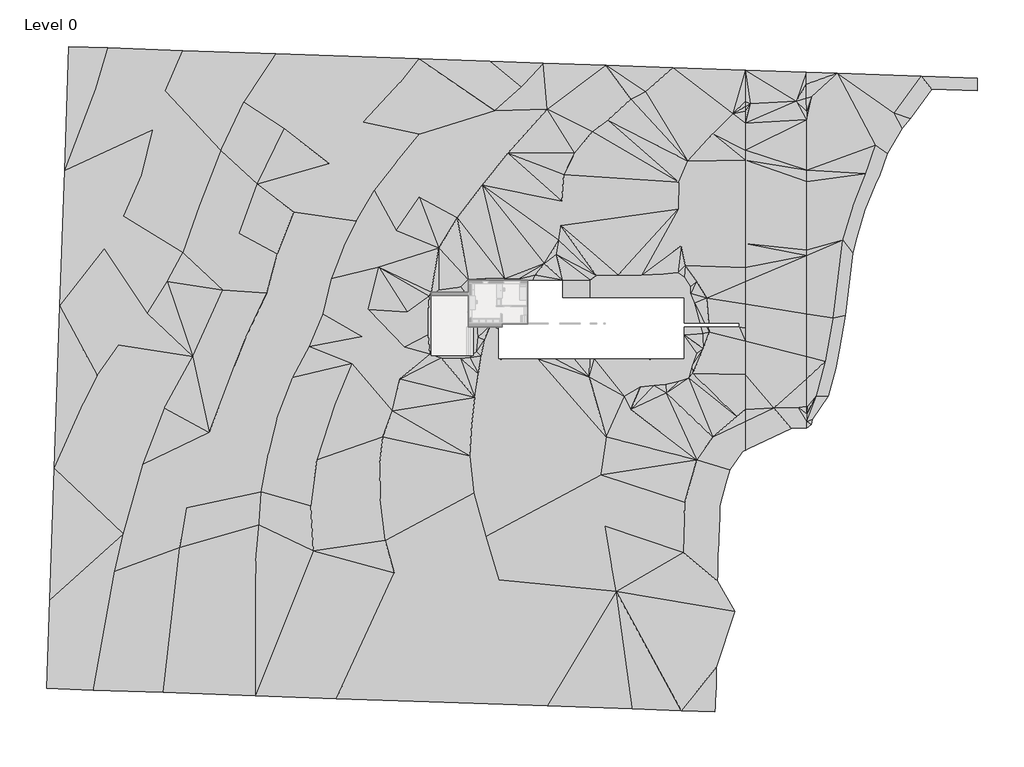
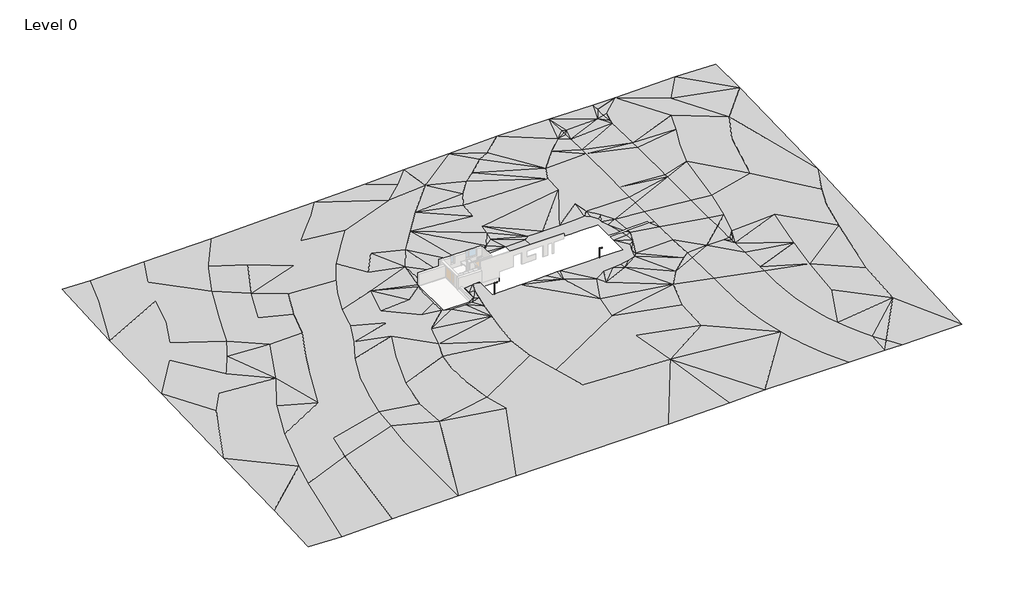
# One storey, part 2 of 2: 5 proxies.
"""IFC4 building model written with IfcOpenShell, lengths in millimetres."""

from ifc_helpers import new_model, si_unit, origin, place, context, project, spatial, triangles, transform, mapped, element, save
from components import downpipe_w_angle_generic_wall_hosted_75_mm_pipe_f65a7cb1, downpipe_w_angle_generic_wall_hosted_75_mm_pipe_d87bf8e7

model = new_model("IFC4")

# Units and contexts
model_context = context("Model", 3, world=origin())
ifc_project = project(units=[si_unit("LENGTHUNIT", "METRE", prefix="MILLI")], contexts=[model_context])

# Site, building, storey
site = spatial("IfcSite", under=ifc_project)
building = spatial("IfcBuilding", under=site)
storey = spatial("IfcBuildingStorey", under=building, Name="Level 0", Elevation=-600.0)

# Proxies
placement = place(None, origin())
element("IfcBuildingElementProxy", 1, Name="Building Element Proxy", at=placement, inside=storey, context=model_context, shape_type="Tessellation", body=[
    triangles([(-47062.8575684, 40293.7637695, -4500.0000343), (-52113.9492554, 40470.1530029, -4500.0000343), (-52680.2635254, 24253.0475281, -4500.0000343), (-53297.9514038, 6564.8318481, -4000.0000305), (-54038.6829346, -14646.8850403, -3500.0000267), (-54638.7579346, -31830.8059204, -3000.0000229), (-55043.0867432, -43409.3735962, -3000.0000229), (-48951.1469604, -43622.1094482, -3000.0000229), (-39803.593689, -43941.550415, -2500.0000191), (-27810.1350586, -44360.3713623, -2000.0000153), (-17239.6279449, -44729.5023193, -1500.0000114), (-5042.8916061, -45155.4205078, -1000.0000076), (10338.5491791, -45692.5505127, -500.0000038), (21451.1325073, -46080.6105469, 0.0), (27844.1074036, -46303.8573853, 500.0000038), (43052.9116333, -46834.9598511, 848.3401514), (41979.1353149, -44769.7417236, 821.2167343), (40992.335083, -42661.5773804, 796.0280828), (40094.2271118, -40514.127063, 772.8178717), (39286.3694458, -38331.1277527, 751.6265053), (39000.8101318, -37448.0839783, 743.9968838), (38570.1596741, -36116.3629395, 734.1783697), (37946.8512085, -33873.683551, 719.8918871), (37417.5207275, -31606.9800476, 707.6728655), (36983.0891052, -29320.1917236, 697.5425245), (36644.3074585, -27017.2904297, 689.5183777), (36596.8638428, -26564.436676, 688.3634336), (36401.7687744, -24702.2712708, 680.94986), (36335.5797913, -23648.1867737, 677.72215), (36255.8939575, -22379.1595825, 675.0342327), (36206.9318298, -20051.987677, 672.2113672), (36206.8132324, -19443.358548, 671.7480234), (36206.0249084, -15469.7173737, 648.0182945), (36205.4621521, -12624.6049896, 609.2137954), (36204.6505737, -8520.1252899, 500.0000038), (36204.4691895, -7605.5439056, 500.0000038), (36204.3436157, -6964.2999069, 500.0000038), (36203.4366943, -2378.8300896, 278.9753953), (36202.5786072, 1955.5409557, 154.9854345), (36202.2367676, 3675.0160881, 145.2621454), (36201.6228516, 6787.9943893, 152.8893415), (36201.0368408, 9744.5709, 142.2020215), (36200.6787231, 11554.5679779, 166.3682426), (36200.0462036, 14749.4345947, 198.2273626), (36199.4904236, 17562.3721985, 203.8248407), (36197.899823, 25594.6726135, 125.4370927), (36197.6416992, 26900.2301331, 115.9978887), (36196.9417419, 30441.6046692, 52.4488289), (36196.6301331, 32020.303656, 0.0), (36196.5092102, 32624.3505066, 0.0), (36196.381311, 33275.6061035, -31.2932048), (36195.5674072, 37386.3156555, -279.2368801), (26696.8216187, 37718.02099, -500.0000038), (18007.2810883, 38021.4652588, -1000.0000076), (9832.8207458, 38306.9245789, -1500.0000114), (2811.2909019, 38552.1212402, -2000.0000153), (-6430.5109772, 38874.8527039, -2500.0000191), (-15696.7697937, 39198.4352783, -3000.0000229), (-25115.869281, 39527.3593872, -3500.0000267), (-37279.4872925, 39952.1241577, -4000.0000305), (12360.0002106, 9960.0001923, -210.0000089), (12360.0002106, 7679.999826, -229.7587047), (12986.7293976, 7679.999826, -199.1943094), (15938.3887665, 7679.999826, -109.0047382), (18788.9891876, 7679.999826, -110.9825699), (20187.7979919, 7679.999826, -100.0000008), (22628.3373962, 7679.999826, -100.0000008), (22988.0666016, 7679.999826, -100.0000008), (24740.727063, 7679.999826, -100.0000008), (28197.1858521, 7679.999826, -100.0000008), (28199.9996338, 7679.999826, -100.0000008), (28199.9996338, 7678.500499, -100.0000008), (28199.9996338, 4319.9999748, -100.0000008), (29690.7714294, 4319.9999748, -100.0000008), (30279.9424438, 4319.9999748, -100.0000008), (30908.9993958, 4319.9999748, -31.0460633), (31416.6009705, 4319.9999748, 0.0), (35399.9996887, 4319.9999748, 122.2298394), (35399.9996887, 3839.999913, 121.0508688), (31455.0242065, 3839.999913, 0.0), (31153.3635498, 3839.999913, -18.4501842), (30409.3973328, 3839.999913, -100.0000008), (29712.602655, 3839.999913, -100.0000008), (28199.9996338, 3839.999913, -100.0000008), (28199.9996338, 2757.5497055, -100.0000008), (28199.9996338, -360.00001, -100.0000008), (23853.7207397, -360.00001, -100.0000008), (22511.993335, -360.00001, -100.0000008), (21752.8164185, -360.00001, -100.0000008), (16504.800705, -360.00001, -141.2041627), (15862.1806274, -360.00001, -140.758296), (15196.7770569, -360.00001, -161.0900401), (13880.4667053, -360.00001, -225.2839233), (13373.8755341, -360.00001, -233.3955103), (12470.4004486, -360.00001, -249.2727207), (11393.3638641, -360.00001, -270.7964614), (9179.1106476, -360.00001, -319.6154838), (3959.9998558, -360.00001, -445.0650939), (3959.9998558, 1473.4966873, -452.5169646), (3959.9998558, 3551.736985, -472.7297934), (3959.9998558, 3839.999913, -476.6637102), (3412.2219543, 3839.999913, -487.6106074), (2850.2850334, 3839.999913, -500.0000038), (2705.52323, 3839.999913, -531.4807858), (1224.3767189, 3839.999913, -709.9999763), (0.0, 3839.999913, -709.9999763), (0.0, 3843.4784798, -709.9999763), (0.0, 4418.2806038, -709.9999763), (0.0, 7191.4790634, -709.9999763), (0.0, 7461.3893326, -709.9999763), (0.0, 7882.6211792, -709.9999763), (0.0, 7919.9997116, -710.7061106), (-31.6140269, 7919.9997116, -709.9999763), (-1504.7497215, 7919.9997116, -709.9999763), (-4176.3875198, 7919.9997116, -709.9999763), (-4800.0000366, 7919.9997116, -709.9999763), (-4800.0000366, 8035.0118774, -709.9999763), (-4800.0000366, 8400.0000641, -729.1942263), (-4206.8946693, 8400.0000641, -709.9999763), (-3944.5231842, 8400.0000641, -709.9999763), (-3079.6797523, 8400.0000641, -709.9999763), (-437.587825, 8400.0000641, -709.9999763), (0.0, 8400.0000641, -719.7739437), (0.0, 9960.0001923, -749.2443832), (7.1510965, 9960.0001923, -749.4040392), (2125.0455803, 9960.0001923, -747.2442146), (2319.5642303, 9960.0001923, -739.3771076), (2455.8945717, 9960.0001923, -733.8796234), (4805.8618881, 9960.0001923, -733.8796234), (4953.8563431, 9960.0001923, -725.251153), (6600.6441971, 9960.0001923, -730.7311237), (6853.6020126, 9960.0001923, -704.9790619), (7800.0000595, 9960.0001923, -581.8375231), (8428.9581802, 9960.0001923, -500.0000038), (63585.4397461, -47551.9718994, 1500.0000114), (65303.6651001, 1651.4795734, 1500.0000114), (66230.8503662, 28202.6204041, 1000.0000076), (66514.5772339, 36327.5523743, 500.0000038), (59144.0178223, 36584.9389893, 500.0000038), (48210.2572998, 36966.7552185, 0.0), (44190.6933472, 37107.1210693, -93.4198246), (44191.0003052, 35558.2946777, 0.0), (44191.2654053, 34209.8676819, 0.0), (44191.3677246, 33712.0096985, 0.0), (44191.7165405, 31934.6437683, 72.6111838), (44191.9211792, 30893.6096375, 88.7050779), (44193.2234253, 24332.861261, 306.6717607), (44193.5257324, 22803.0964966, 334.1229921), (44194.269873, 19042.5376648, 361.3118849), (44194.8558838, 16068.4447815, 390.3362397), (44195.0651733, 15026.9083557, 388.2636918), (44195.2977173, 13843.9561432, 376.4673188), (44195.4279419, 13173.7749573, 367.5193548), (44196.9394775, 5532.5384628, 395.1405976), (44197.1255127, 4592.1322014, 392.8364868), (44198.0463867, -57.8921377, 419.1314661), (44198.6091431, -2884.8492027, 500.0000038), (44198.9998169, -4861.496283, 500.0000038), (44199.22771, -6011.4522537, 500.0000038), (44199.3393311, -6581.8465073, 500.0000038), (44199.534668, -7568.643251, 560.6235563), (44199.7160522, -8498.5527695, 566.292905), (44200.3625244, -11759.9798584, 687.5978554), (44201.3159546, -16580.0542511, 815.8525269), (44201.5810547, -17920.7363708, 834.1381113), (44201.953125, -19793.2081238, 845.3201323), (44202.0600952, -20331.1822632, 845.7296276), (44234.3790527, -21781.2960754, 847.527919), (44247.6340576, -22375.9504761, 848.8214447), (44383.467627, -24416.7119568, 855.2387129), (44609.2864014, -26449.4832275, 863.612911), (44771.1741943, -27486.8129333, 868.9077913), (44924.6578491, -28470.2994141, 872.5287912), (45328.9634033, -30475.216571, 881.9271275), (45733.0829224, -32104.2566711, 891.2315014), (45821.4124146, -32460.3233093, 893.6950138), (46401.0468018, -34421.7477722, 909.3926748), (47066.7317505, -36355.6599609, 927.0232121), (47817.1743164, -38258.2880127, 946.5522526), (48650.9048218, -40125.9182007, 967.9416447), (49566.3001099, -41954.9088867, 991.1496758), (49918.9018433, -42587.926062, 1000.0000076), (50561.5695923, -43741.6928467, 1047.5840218), (51238.2864258, -44839.5421143, 1097.2580973), (51634.7785034, -45482.7772705, 1100.1833548), (52783.824646, -47174.7716675, 1111.758375), (-48727.0164551, 34677.7437744, -4500.0000343), (-39569.998645, 34629.3444031, -4000.0000305), (-41240.5431885, 29531.6671875, -4000.0000305), (-42666.0794312, 23679.1686035, -4000.0000305), (-45023.6843628, 18334.1157898, -4000.0000305), (-47481.3203979, 14010.1901825, -4000.0000305), (-29308.3924438, 33185.52323, -3500.0000267), (-32311.3300781, 26845.3706909, -3500.0000267), (-35071.6220581, 19682.6404541, -3500.0000267), (-37254.3446411, 13517.3714264, -3500.0000267), (-39284.1230713, 9789.0862061, -3500.0000267), (-41872.5418213, 5605.4113403, -3500.0000267), (-45612.8763062, 1461.9632343, -3500.0000267), (-48397.4737793, -2511.3333389, -3500.0000267), (-50221.6089478, -6178.9583084, -3500.0000267), (-24001.2001099, 29743.7635437, -3000.0000229), (-27511.581189, 22471.5399902, -3000.0000229), (-29907.0466003, 16042.3324219, -3000.0000229), (-32064.6009521, 8655.024614, -3000.0000229), (-35963.4699463, -28.3201486, -3000.0000229), (-39658.2025635, -6751.3675552, -3000.0000229), (-42493.3504395, -14115.012854, -3000.0000229), (-45048.8595703, -23184.4801941, -3000.0000229), (-46170.2283325, -28097.808197, -3000.0000229), (-37649.7205078, -25003.2366211, -2500.0000191), (-36789.9264771, -19809.4048096, -2500.0000191), (-33799.4648254, -9941.0199554, -2500.0000191), (-30515.1652954, -1371.8979469, -2500.0000191), (-29025.0981079, 2443.0776215, -2500.0000191), (-26312.1288208, 8250.6173218, -2500.0000191), (-24912.6235474, 13357.7590759, -2500.0000191), (-22753.5623108, 18845.4299286, -2500.0000191), (-18122.0287354, 25196.5527283, -2500.0000191), (-13659.1406799, 30603.7715149, -2500.0000191), (-8864.5531036, 35795.8801758, -2500.0000191), (-6388.4228485, 28993.025647, -2000.0000153), (-9364.4702637, 25365.6261292, -2000.0000153), (-12275.123996, 21668.1006592, -2000.0000153), (-14585.4062347, 17678.2418701, -2000.0000153), (-16187.3305481, 14459.9999359, -2000.0000153), (-17834.2137451, 10125.5145081, -2000.0000153), (-18946.1179688, 5483.2257751, -2000.0000153), (-20721.4212341, 1271.1572937, -2000.0000153), (-22898.5511353, -2791.1947449, -2000.0000153), (-24987.4840942, -8213.472496, -2000.0000153), (-26097.0210205, -12788.0019928, -2000.0000153), (-27015.1114929, -17708.4272369, -2000.0000153), (-27302.068396, -22040.3128235, -2000.0000153), (-27738.7440674, -26774.0238831, -2000.0000153), (-20228.3931885, -25408.0747009, -1500.0000114), (-20566.9748474, -19561.815271, -1500.0000114), (-19746.5435303, -13552.5030029, -1500.0000114), (-17390.4443207, -6307.8138153, -1500.0000114), (-15168.3566986, -958.0283689, -1500.0000114), (-13891.0335022, 2593.0074234, -1500.0000114), (-13022.63302, 6090.4805695, -1500.0000114), (-11674.3234589, 11674.3060181, -1500.0000114), (-9405.7723938, 16411.8877716, -1500.0000114), (-6403.6969162, 20784.6429565, -1500.0000114), (-1297.8450542, 27119.2028137, -1500.0000114), (3489.6439728, 32108.0331848, -1500.0000114), (6921.0792892, 35176.7923828, -1500.0000114), (10347.5660706, 32275.6020264, -1000.0000076), (5195.2503296, 26553.2466614, -1000.0000076), (1859.1087605, 22327.8417847, -1000.0000076), (-1398.9093796, 18126.6784515, -1000.0000076), (-3825.0772774, 14149.4654022, -1000.0000076), (-7940.8594849, 5802.4702423, -1000.0000076), (-8333.9447937, 1225.2095169, -1000.0000076), (-8925.7639023, -3001.0194374, -1000.0000076), (-9890.4183929, -7180.3012573, -1000.0000076), (-11160.6431854, -10534.0500366, -1000.0000076), (-11552.3599731, -13974.3353943, -1000.0000076), (-11444.5898071, -18659.2157135, -1000.0000076), (-10818.4059357, -24040.6232849, -1000.0000076), (-9609.9180725, -28289.0453613, -1000.0000076), (3993.2080032, -29238.9734253, -500.0000038), (2292.3340611, -23548.6672668, -500.0000038), (726.9793905, -17863.0957031, -500.0000038), (217.3844419, -13028.4977783, -500.0000038), (497.2431227, -8899.8916443, -500.0000038), (891.3251003, -5385.8549744, -500.0000038), (1346.1470478, -2223.5266331, -500.0000038), (2095.3158543, 2128.5684757, -500.0000038), (8788.1391632, 10609.6175171, -500.0000038), (11516.9016724, 13306.7726532, -500.0000038), (12123.7274231, 17084.7490265, -500.0000038), (12234.9392395, 20269.4534729, -500.0000038), (12491.1363922, 23720.4637573, -500.0000038), (13945.7103973, 26519.0440979, -500.0000038), (16215.7660217, 29356.9894775, -500.0000038), (18235.2195007, 30846.8403992, -500.0000038), (21248.2658203, 33590.9984802, -500.0000038), (23181.0292419, 34541.1404846, -500.0000038), (44868.8473022, 33919.4691284, 0.0), (34547.2261597, 31701.9021606, 0.0), (31945.4710144, 29079.0645813, 0.0), (28698.3831665, 25461.1296021, 0.0), (27517.2157288, 22720.8457031, 0.0), (27461.9307312, 19194.9760345, 0.0), (27860.4226868, 14459.9999359, 0.0), (28378.5817566, 11841.5469727, 0.0), (31155.623877, 7580.336142, 0.0), (31511.3044922, 3136.9059105, 0.0), (29351.6991028, -2282.9900093, 0.0), (21225.0300293, -6988.215889, 0.0), (18031.4156616, -10534.0500366, 0.0), (17294.3222809, -15524.4210114, 0.0), (17875.5484314, -22193.2616272, 0.0), (18716.8424286, -27242.9696777, 0.0), (19341.5217407, -30724.7408752, 0.0), (28068.5355652, -25602.1116943, 500.0000038), (28295.6914673, -19097.1854919, 500.0000038), (29847.280481, -13520.4584473, 500.0000038), (31979.4526611, -10534.0500366, 500.0000038), (35064.9899048, -7868.2290344, 500.0000038), (36199.9996948, -6964.5516357, 500.0000038), (44337.0937134, -6563.8028412, 500.0000038), (45470.9361328, -5178.7100601, 500.0000038), (46645.8690674, -674.3065882, 500.0000038), (47657.7468384, 4989.1094238, 500.0000038), (48895.9224243, 15190.0553741, 500.0000038), (50274.1313232, 19687.3610962, 500.0000038), (51911.5476563, 23836.4008667, 500.0000038), (53195.971582, 27590.7158936, 500.0000038), (55648.8730225, 31779.1230286, 500.0000038), (60736.0043701, 22035.7154297, 1000.0000076), (58037.2342163, 16634.7334717, 1000.0000076), (55722.0034424, 6674.9251282, 1000.0000076), (53335.7909546, -5317.6719269, 1000.0000076), (52093.7411865, -13686.7413208, 1000.0000076), (51326.8763672, -20104.9774658, 1000.0000076), (50706.4956299, -28156.5464722, 1000.0000076), (57713.8725586, -35619.0770142, 1500.0000114), (58305.9015381, -26183.1273926, 1500.0000114), (60372.2498291, -13636.622287, 1500.0000114), (61674.0959473, -7440.5935089, 1500.0000114), (63057.1231567, -3553.8845284, 1500.0000114), (11832.5114777, 15154.4156891, -500.0000038), (9950.8751678, 12083.4426727, -500.0000038), (1735.4006138, 0.0, -500.0000038), (29870.0907166, 9741.7024704, 0.0), (30738.9167542, 999.1443913, 0.0), (25851.7731995, -4811.1269737, 0.0), (20416.7863403, -5238.1424789, -100.0000008), (22459.4616577, -3990.260218, -100.0000008), (24228.7466858, -3843.1572784, -100.0000008), (25817.300885, -3664.5609123, -100.0000008), (27456.1055054, -3296.7179581, -100.0000008), (28837.8746521, -2864.285051, -100.0000008), (29304.2043274, -1143.71609, -100.0000008), (29869.8953796, 381.3363894, -100.0000008), (30652.7243408, 2937.7683563, -100.0000008), (29571.2717468, 6947.676503, -100.0000008), (29062.4818726, 8164.9522018, -100.0000008), (29045.64104, 9098.5016144, -100.0000008), (28251.6918274, 10345.668512, -100.0000008), (27431.4721252, 10924.2006409, -100.0000008), (15839.9994232, -2700.0000206, -150.0000011), (25511.5637329, 10719.1294373, -100.0000008), (22670.9580505, 10625.224704, -100.0000008), (19619.0675903, 10601.74823, -100.0000008), (16754.9842712, 10554.7964447, -100.0000008), (15960.000238, 9960.0001923, -100.0000008), (6589.8413681, 10108.750415, -750.0000057), (4758.7072083, 10155.703363, -750.0000057), (2246.7664936, 10155.703363, -750.0000057), (0.0, 10000.0000763, -750.0000057), (-969.4566685, 9028.8512146, -709.9999763), (-3833.5386795, 8629.7575516, -709.9999763), (-5054.2949799, 7878.5231735, -709.9999763), (-5171.6750244, 5859.5801285, -709.9999763), (-5195.1514984, 2831.1655609, -709.9999763), (-5030.8185059, 319.2248099, -709.9999763), (-3528.3494591, -220.7250446, -709.9999763), (-969.4566685, -267.6772114, -709.9999763), (251.2995955, -150.2968035, -709.9999763), (1096.4385252, 624.4138487, -709.9999763), (1284.2471924, 2479.0242645, -709.9999763)], [[6, 7, 8], [210, 8, 9], [8, 210, 6], [235, 211, 9], [6, 209, 5], [209, 6, 210], [209, 210, 211], [5, 209, 208], [209, 212, 208], [212, 209, 211], [234, 212, 211], [213, 208, 212], [210, 9, 211], [5, 208, 201], [235, 9, 10], [235, 236, 234], [235, 10, 236], [262, 261, 236], [262, 11, 12], [260, 261, 265], [262, 236, 11], [10, 11, 236], [236, 261, 237], [234, 237, 233], [234, 236, 237], [233, 237, 238], [233, 212, 234], [238, 260, 259], [260, 238, 237], [259, 266, 258], [238, 259, 258], [261, 260, 237], [213, 212, 233], [265, 259, 260], [234, 211, 235], [232, 233, 238], [201, 200, 4], [200, 201, 207], [206, 207, 213], [207, 201, 208], [207, 208, 213], [200, 207, 199], [233, 232, 213], [213, 231, 214], [4, 199, 198], [199, 4, 200], [198, 199, 206], [192, 4, 198], [206, 214, 215], [206, 199, 207], [230, 215, 214], [198, 206, 197], [213, 214, 206], [215, 205, 206], [231, 213, 232], [201, 4, 5], [231, 239, 230], [232, 238, 231], [240, 230, 239], [231, 230, 214], [239, 257, 240], [266, 257, 258], [268, 256, 257], [257, 239, 258], [239, 231, 238], [256, 240, 257], [228, 229, 241], [240, 229, 230], [241, 229, 240], [229, 216, 215], [241, 255, 242], [255, 241, 240], [242, 255, 254], [241, 242, 228], [240, 256, 255], [228, 216, 229], [255, 256, 360], [229, 215, 230], [238, 258, 239], [228, 242, 227], [261, 262, 264], [257, 266, 267], [266, 259, 265], [265, 294, 266], [265, 261, 264], [264, 262, 263], [293, 267, 266], [12, 13, 263], [264, 294, 265], [362, 361, 268], [257, 267, 268], [361, 256, 268], [106, 361, 362], [268, 98, 269], [97, 98, 268], [362, 269, 363], [268, 269, 362], [97, 268, 267], [98, 327, 269], [264, 263, 295], [361, 360, 256], [96, 97, 345], [296, 295, 263], [264, 295, 294], [97, 293, 345], [293, 97, 267], [90, 345, 331], [263, 13, 297], [96, 345, 95], [345, 94, 95], [345, 93, 94], [92, 93, 345], [345, 91, 92], [345, 90, 91], [293, 266, 294], [360, 361, 359], [359, 254, 255], [106, 362, 365], [359, 361, 106], [364, 363, 327], [364, 362, 363], [359, 106, 107], [357, 254, 358], [254, 359, 358], [108, 109, 114], [242, 254, 243], [358, 108, 114], [108, 358, 359], [107, 108, 359], [362, 364, 365], [255, 360, 359], [364, 270, 365], [270, 364, 327], [270, 327, 99], [104, 365, 270], [270, 100, 102], [99, 100, 270], [327, 98, 99], [101, 102, 100], [104, 105, 365], [103, 104, 270], [62, 63, 61], [103, 270, 102], [365, 105, 106], [363, 269, 327], [114, 109, 110], [263, 262, 12], [196, 197, 205], [205, 197, 206], [216, 227, 217], [216, 228, 227], [217, 227, 226], [216, 217, 205], [205, 215, 216], [204, 205, 217], [192, 196, 191], [196, 192, 197], [195, 191, 196], [192, 191, 3], [217, 218, 204], [204, 196, 205], [218, 226, 225], [195, 196, 204], [226, 218, 217], [203, 204, 218], [227, 243, 226], [197, 192, 198], [357, 117, 118], [117, 357, 116], [116, 357, 358], [115, 116, 358], [225, 243, 244], [243, 225, 226], [253, 244, 243], [225, 244, 224], [118, 119, 356], [356, 119, 120], [253, 243, 118], [243, 357, 118], [245, 244, 253], [120, 121, 356], [243, 227, 242], [357, 243, 254], [218, 225, 219], [3, 190, 189], [3, 191, 190], [190, 194, 189], [194, 190, 195], [193, 194, 202], [189, 194, 188], [191, 195, 190], [3, 189, 187], [2, 187, 1], [187, 2, 3], [1, 187, 188], [188, 193, 60], [188, 187, 189], [60, 193, 59], [188, 60, 1], [194, 193, 188], [194, 195, 203], [218, 219, 203], [195, 204, 203], [219, 224, 223], [202, 203, 219], [223, 245, 222], [245, 223, 224], [246, 222, 245], [219, 223, 220], [219, 225, 224], [222, 220, 223], [59, 202, 58], [59, 193, 202], [58, 202, 220], [221, 57, 58], [221, 220, 222], [57, 221, 222], [221, 58, 220], [202, 219, 220], [57, 222, 247], [202, 194, 203], [244, 245, 224], [118, 356, 253], [192, 3, 4], [114, 110, 113], [111, 112, 113], [358, 114, 115], [121, 122, 355], [122, 123, 355], [356, 355, 253], [354, 124, 125], [124, 354, 355], [355, 123, 124], [354, 125, 126], [253, 355, 354], [352, 129, 130], [351, 130, 131], [131, 132, 351], [128, 129, 352], [353, 126, 127], [127, 128, 353], [134, 61, 271], [61, 63, 350], [134, 271, 133], [351, 132, 133], [354, 126, 353], [350, 65, 349], [111, 113, 110], [272, 61, 350], [251, 245, 252], [253, 354, 252], [128, 352, 353], [352, 130, 351], [252, 352, 251], [353, 352, 252], [354, 353, 252], [326, 251, 352], [57, 247, 56], [246, 245, 251], [250, 246, 251], [247, 222, 246], [248, 247, 249], [250, 247, 246], [250, 249, 247], [247, 248, 56], [250, 251, 274], [56, 248, 55], [351, 326, 352], [252, 245, 253], [61, 272, 326], [326, 271, 61], [326, 272, 325], [325, 251, 326], [325, 349, 273], [349, 325, 272], [274, 273, 286], [273, 251, 325], [351, 133, 271], [251, 273, 274], [249, 54, 55], [55, 248, 249], [250, 274, 275], [250, 275, 276], [275, 285, 276], [277, 276, 285], [276, 277, 249], [276, 249, 250], [274, 285, 275], [278, 249, 277], [349, 348, 273], [271, 326, 351], [272, 350, 349], [65, 350, 64], [355, 356, 121], [64, 350, 63], [299, 294, 295], [296, 297, 298], [296, 263, 297], [297, 23, 298], [30, 298, 29], [15, 297, 14], [13, 14, 297], [298, 299, 295], [299, 33, 300], [33, 299, 32], [300, 33, 34], [300, 294, 299], [31, 32, 299], [30, 31, 299], [299, 298, 30], [23, 297, 15], [294, 300, 293], [22, 23, 15], [21, 22, 15], [19, 20, 15], [15, 20, 21], [28, 29, 298], [28, 298, 27], [25, 26, 298], [24, 25, 298], [298, 26, 27], [23, 24, 298], [15, 18, 19], [331, 89, 90], [331, 293, 292], [332, 292, 333], [330, 292, 300], [333, 292, 330], [292, 332, 331], [293, 300, 292], [331, 332, 89], [332, 87, 88], [88, 89, 332], [87, 334, 86], [334, 333, 330], [335, 334, 330], [334, 87, 333], [333, 87, 332], [86, 334, 335], [330, 336, 335], [302, 36, 303], [35, 302, 301], [302, 303, 38], [301, 302, 336], [35, 36, 302], [34, 35, 301], [301, 330, 300], [303, 36, 37], [86, 336, 337], [336, 86, 335], [337, 336, 291], [338, 86, 337], [302, 38, 291], [291, 336, 302], [337, 291, 329], [37, 38, 303], [291, 38, 329], [301, 336, 330], [300, 34, 301], [295, 296, 298], [17, 18, 15], [319, 176, 177], [17, 15, 16], [319, 172, 173], [175, 319, 174], [175, 176, 319], [319, 173, 174], [172, 319, 171], [178, 319, 177], [183, 320, 182], [184, 320, 183], [320, 185, 186], [184, 185, 320], [320, 186, 135], [320, 179, 180], [320, 180, 181], [319, 320, 321], [319, 178, 320], [321, 320, 135], [171, 319, 170], [181, 182, 320], [320, 178, 179], [135, 322, 321], [318, 319, 321], [163, 317, 162], [165, 318, 164], [317, 163, 164], [166, 318, 165], [305, 157, 158], [159, 305, 158], [304, 160, 161], [159, 160, 304], [162, 305, 161], [166, 167, 318], [318, 168, 169], [318, 169, 170], [318, 322, 317], [322, 318, 321], [317, 322, 316], [317, 164, 318], [170, 319, 318], [162, 317, 316], [305, 306, 157], [161, 305, 304], [306, 305, 316], [305, 159, 304], [316, 323, 324], [162, 316, 305], [324, 323, 322], [306, 316, 315], [322, 323, 316], [315, 316, 324], [324, 322, 136], [167, 168, 318], [322, 135, 136], [306, 156, 157], [84, 85, 83], [340, 74, 75], [73, 74, 340], [85, 339, 83], [66, 67, 347], [65, 66, 348], [341, 72, 340], [73, 340, 72], [67, 68, 347], [339, 82, 83], [85, 329, 339], [82, 339, 81], [290, 81, 339], [79, 290, 39], [81, 290, 80], [290, 339, 329], [290, 329, 39], [76, 289, 340], [289, 76, 77], [76, 340, 75], [79, 80, 290], [289, 77, 78], [328, 289, 42], [338, 337, 329], [338, 329, 85], [86, 338, 85], [341, 340, 289], [286, 348, 347], [348, 66, 347], [346, 70, 344], [70, 346, 69], [286, 347, 287], [69, 346, 347], [68, 69, 347], [347, 346, 287], [54, 278, 279], [249, 278, 54], [284, 279, 278], [54, 279, 280], [53, 280, 283], [279, 284, 280], [277, 285, 278], [280, 53, 54], [286, 285, 274], [346, 344, 287], [273, 348, 286], [343, 70, 342], [342, 70, 71], [288, 344, 343], [342, 341, 328], [341, 342, 71], [328, 341, 289], [342, 328, 343], [71, 72, 341], [343, 328, 288], [284, 46, 283], [285, 286, 45], [287, 344, 288], [44, 287, 288], [285, 46, 284], [45, 286, 287], [283, 282, 53], [284, 283, 280], [288, 328, 43], [285, 284, 278], [283, 48, 282], [343, 344, 70], [53, 282, 52], [65, 348, 349], [42, 43, 328], [289, 41, 42], [40, 41, 78], [40, 78, 79], [79, 39, 40], [45, 287, 44], [44, 288, 43], [308, 149, 150], [308, 150, 151], [45, 46, 285], [307, 154, 155], [155, 156, 306], [307, 155, 306], [306, 315, 307], [315, 136, 314], [154, 307, 153], [324, 136, 315], [308, 307, 315], [152, 153, 308], [153, 307, 308], [308, 309, 149], [310, 309, 314], [314, 309, 308], [313, 314, 136], [149, 309, 148], [315, 314, 308], [308, 151, 152], [136, 137, 313], [38, 39, 329], [313, 310, 314], [282, 49, 50], [48, 49, 282], [283, 47, 48], [50, 51, 282], [282, 51, 52], [143, 144, 281], [142, 143, 281], [141, 142, 140], [283, 46, 47], [147, 148, 310], [146, 147, 311], [313, 311, 310], [313, 137, 312], [146, 311, 281], [310, 311, 147], [148, 309, 310], [311, 313, 312], [311, 140, 281], [281, 145, 146], [281, 140, 142], [145, 281, 144], [137, 139, 312], [139, 137, 138], [312, 139, 140], [312, 140, 311], [289, 78, 41], [293, 331, 345]], closed=False),
])
element("IfcBuildingElementProxy", 2, Name="Building Element Proxy", at=placement, inside=storey, context=model_context, shape_type="Tessellation", body=[
    triangles([(49674.4981567, -47066.1922485, 1000.0000076), (52783.824646, -47174.7716675, 1111.758375), (51634.7785034, -45482.7772705, 1100.1833548), (51238.2864258, -44839.5421143, 1097.2580973), (50561.5695923, -43741.6928467, 1047.5840218), (49918.9018433, -42587.926062, 1000.0000076), (49566.3001099, -41954.9088867, 991.1496758), (48650.9048218, -40125.9182007, 967.9416447), (47817.1743164, -38258.2880127, 946.5522526), (47066.7317505, -36355.6599609, 927.0232121), (46401.0468018, -34421.7477722, 909.3926748), (45821.4124146, -32460.3233093, 893.6950138), (45733.0829224, -32104.2566711, 891.2315014), (45328.9634033, -30475.216571, 881.9271275), (44924.6578491, -28470.2994141, 872.5287912), (44771.1741943, -27486.8129333, 868.9077913), (44609.2864014, -26449.4832275, 863.612911), (44383.467627, -24416.7119568, 855.2387129), (44247.6340576, -22375.9504761, 848.8214447), (44234.3790527, -21781.2960754, 847.527919), (44202.0600952, -20331.1822632, 845.7296276), (44201.953125, -19793.2081238, 845.3201323), (44201.5810547, -17920.7363708, 834.1381113), (44201.3159546, -16580.0542511, 815.8525269), (44200.3625244, -11759.9798584, 687.5978554), (44199.7160522, -8498.5527695, 566.292905), (44199.534668, -7568.643251, 560.6235563), (44199.3393311, -6581.8465073, 500.0000038), (44199.22771, -6011.4522537, 500.0000038), (44198.9998169, -4861.496283, 500.0000038), (44198.6091431, -2884.8492027, 500.0000038), (44198.0463867, -57.8921377, 419.1314661), (44197.1255127, 4592.1322014, 392.8364868), (44196.9394775, 5532.5384628, 395.1405976), (44195.4279419, 13173.7749573, 367.5193548), (44195.2977173, 13843.9561432, 376.4673188), (44195.0651733, 15026.9083557, 388.2636918), (44194.8558838, 16068.4447815, 390.3362397), (44194.269873, 19042.5376648, 361.3118849), (44193.5257324, 22803.0964966, 334.1229921), (44193.2234253, 24332.861261, 306.6717607), (44191.9211792, 30893.6096375, 88.7050779), (44191.7165405, 31934.6437683, 72.6111838), (44191.3677246, 33712.0096985, 0.0), (44191.2654053, 34209.8676819, 0.0), (44191.0003052, 35558.2946777, 0.0), (44190.6933472, 37107.1210693, -93.4198246), (36195.5674072, 37386.3156555, -279.2368801), (36196.381311, 33275.6061035, -31.2932048), (36196.5092102, 32624.3505066, 0.0), (36196.6301331, 32020.303656, 0.0), (36196.9417419, 30441.6046692, 52.4488289), (36197.6416992, 26900.2301331, 115.9978887), (36197.899823, 25594.6726135, 125.4370927), (36199.4904236, 17562.3721985, 203.8248407), (36200.0462036, 14749.4345947, 198.2273626), (36200.6787231, 11554.5679779, 166.3682426), (36201.0368408, 9744.5709, 142.2020215), (36201.6228516, 6787.9943893, 152.8893415), (36202.2367676, 3675.0160881, 145.2621454), (36202.5786072, 1955.5409557, 154.9854345), (36203.4366943, -2378.8300896, 278.9753953), (36204.3436157, -6964.2999069, 500.0000038), (36204.4691895, -7605.5439056, 500.0000038), (36204.6505737, -8520.1252899, 500.0000038), (36205.4621521, -12624.6049896, 609.2137954), (36206.0249084, -15469.7173737, 648.0182945), (36206.8132324, -19443.358548, 671.7480234), (36206.9318298, -20051.987677, 672.2113672), (36255.8939575, -22379.1595825, 675.0342327), (36335.5797913, -23648.1867737, 677.72215), (36401.7687744, -24702.2712708, 680.94986), (36596.8638428, -26564.436676, 688.3634336), (36644.3074585, -27017.2904297, 689.5183777), (36983.0891052, -29320.1917236, 697.5425245), (37417.5207275, -31606.9800476, 707.6728655), (37946.8512085, -33873.683551, 719.8918871), (38570.1596741, -36116.3629395, 734.1783697), (39000.8101318, -37448.0839783, 743.9968838), (39286.3694458, -38331.1277527, 751.6265053), (40094.2271118, -40514.127063, 772.8178717), (40992.335083, -42661.5773804, 796.0280828), (41979.1353149, -44769.7417236, 821.2167343), (43052.9116333, -46834.9598511, 848.3401514), (42880.1593872, 33310.4923462, 0.0), (36830.619342, 32979.0102539, 0.0), (39920.8842041, -6748.7967819, 500.0000038), (43110.3174316, -6724.490126, 500.0000038)], [[69, 22, 68], [71, 19, 70], [68, 23, 67], [70, 21, 69], [65, 87, 64], [64, 87, 63], [66, 67, 25], [25, 87, 66], [87, 65, 66], [72, 18, 71], [79, 11, 78], [80, 81, 10], [80, 11, 79], [81, 82, 9], [74, 17, 73], [74, 75, 16], [77, 14, 76], [15, 75, 76], [78, 12, 77], [18, 72, 73], [8, 82, 83], [54, 41, 53], [56, 38, 55], [55, 40, 54], [42, 52, 53], [86, 49, 50], [86, 50, 51], [42, 85, 52], [52, 86, 51], [48, 49, 86], [57, 58, 35], [33, 60, 61], [31, 62, 87], [87, 62, 63], [26, 88, 87], [61, 62, 32], [59, 60, 34], [85, 86, 52], [85, 44, 45], [85, 47, 48], [58, 59, 34], [46, 47, 85], [45, 46, 85], [56, 57, 35], [85, 48, 86], [30, 87, 88], [7, 83, 84], [15, 16, 75], [13, 14, 77], [12, 13, 77], [15, 76, 14], [23, 68, 22], [20, 21, 70], [18, 19, 71], [17, 18, 73], [20, 70, 19], [16, 17, 74], [1, 5, 6], [5, 1, 4], [3, 4, 1], [2, 3, 1], [11, 80, 10], [10, 81, 9], [8, 83, 7], [7, 84, 6], [82, 8, 9], [11, 12, 78], [6, 84, 1], [56, 37, 38], [56, 35, 36], [35, 58, 34], [36, 37, 56], [43, 44, 85], [43, 85, 42], [54, 40, 41], [55, 39, 40], [53, 41, 42], [55, 38, 39], [88, 27, 28], [87, 25, 26], [33, 34, 60], [88, 26, 27], [33, 61, 32], [62, 31, 32], [30, 31, 87], [30, 88, 29], [29, 88, 28], [24, 25, 67], [24, 67, 23], [21, 22, 69]], closed=False),
])
element("IfcBuildingElementProxy", 3, Name="Building Element Proxy", at=placement, inside=storey, context=model_context, shape_type="Tessellation", body=[
    triangles([(7800.0000595, 9960.0001923, -1900.1595978), (7800.0000595, 9960.0001923, -1300.1595932), (7800.0000595, 9426.2676544, -1900.1595978), (7800.0000595, 9426.2676544, -1300.1595932), (7800.0000595, 9070.6283157, -1900.1595978), (7800.0000595, 9070.6283157, -1300.1595932), (7800.0000595, 8517.3359253, -1900.1595978), (7800.0000595, 8517.3359253, -1300.1595932), (7800.0000595, 6901.0630692, -1900.1595978), (7800.0000595, 6901.0630692, -1300.1595932), (7800.0000595, 4928.8119415, -1900.1595978), (7800.0000595, 4928.8119415, -1300.1595932), (7800.0000595, 4200.000032, -1900.1595978), (7800.0000595, 4200.000032, -1300.1595932), (5904.0000916, 4200.000032, -1900.1595978), (5904.0000916, 4200.000032, -1300.1595932), (4439.9999176, 4200.000032, -1900.1595978), (4439.9999176, 4200.000032, -1300.1595932), (4439.9999176, 3839.999913, -1900.1595978), (4439.9999176, 3839.999913, -1300.1595932), (3959.9998558, 3839.999913, -1900.1595978), (3959.9998558, 3839.999913, -1300.1595932)], [[1, 4, 2], [1, 3, 4], [3, 6, 4], [3, 5, 6], [5, 8, 6], [5, 7, 8], [7, 10, 8], [7, 9, 10], [9, 12, 10], [9, 11, 12], [11, 14, 12], [11, 13, 14], [13, 16, 14], [13, 15, 16], [15, 18, 16], [15, 17, 18], [17, 20, 18], [17, 19, 20], [19, 22, 20], [19, 21, 22]], closed=False),
    triangles([(7800.0000595, 9960.0001923, -1900.1595978), (7800.0000595, 9960.0001923, -581.8375231), (6853.6020126, 9960.0001923, -1900.1595978), (6853.6020126, 9960.0001923, -704.9790619), (6600.6441971, 9960.0001923, -1900.1595978), (6600.6441971, 9960.0001923, -730.7311237), (4953.8563431, 9960.0001923, -1900.1595978), (4953.8563431, 9960.0001923, -725.251153), (4805.8618881, 9960.0001923, -1900.1595978), (4805.8618881, 9960.0001923, -733.8796234), (2455.8945717, 9960.0001923, -1900.1595978), (2455.8945717, 9960.0001923, -733.8796234), (2319.5642303, 9960.0001923, -1900.1595978), (2319.5642303, 9960.0001923, -739.3771076), (2125.0455803, 9960.0001923, -1900.1595978), (2125.0455803, 9960.0001923, -747.2442146), (7.1510965, 9960.0001923, -1900.1595978), (7.1510965, 9960.0001923, -749.4040392), (0.0, 9960.0001923, -1900.1595978), (0.0, 9960.0001923, -749.2443832), (0.0, 8400.0000641, -1900.1595978), (0.0, 8400.0000641, -719.7739437), (-437.587825, 8400.0000641, -1900.1595978), (-437.587825, 8400.0000641, -709.9999763), (-3079.6797523, 8400.0000641, -1900.1595978), (-3079.6797523, 8400.0000641, -709.9999763), (-3944.5231842, 8400.0000641, -1900.1595978), (-3944.5231842, 8400.0000641, -709.9999763), (-4206.8946693, 8400.0000641, -1900.1595978), (-4206.8946693, 8400.0000641, -709.9999763), (-4800.0000366, 8400.0000641, -1900.1595978), (-4800.0000366, 8400.0000641, -729.1942263), (-4800.0000366, 8035.0118774, -1900.1595978), (-4800.0000366, 8035.0118774, -709.9999763), (-4800.0000366, 7919.9997116, -1900.1595978), (-4800.0000366, 7919.9997116, -709.9999763), (-4176.3875198, 7919.9997116, -1900.1595978), (-4176.3875198, 7919.9997116, -709.9999763), (-1504.7497215, 7919.9997116, -1900.1595978), (-1504.7497215, 7919.9997116, -709.9999763), (-31.6140269, 7919.9997116, -1900.1595978), (-31.6140269, 7919.9997116, -709.9999763), (0.0, 7919.9997116, -1900.1595978), (0.0, 7919.9997116, -710.7061106), (0.0, 7882.6211792, -1900.1595978), (0.0, 7882.6211792, -709.9999763), (0.0, 7461.3893326, -1900.1595978), (0.0, 7461.3893326, -709.9999763), (0.0, 7191.4790634, -1900.1595978), (0.0, 7191.4790634, -709.9999763), (0.0, 4418.2806038, -1900.1595978), (0.0, 4418.2806038, -709.9999763), (0.0, 3843.4784798, -1900.1595978), (0.0, 3843.4784798, -709.9999763), (0.0, 3839.999913, -1900.1595978), (0.0, 3839.999913, -709.9999763), (1224.3767189, 3839.999913, -1900.1595978), (1224.3767189, 3839.999913, -709.9999763), (2705.52323, 3839.999913, -1900.1595978), (2705.52323, 3839.999913, -531.4807858), (2850.2850334, 3839.999913, -1900.1595978), (2850.2850334, 3839.999913, -500.0000038), (3412.2219543, 3839.999913, -1900.1595978), (3412.2219543, 3839.999913, -487.6106074), (3959.9998558, 3839.999913, -1900.1595978), (3959.9998558, 3839.999913, -476.6637102)], [[1, 4, 2], [1, 3, 4], [3, 6, 4], [3, 5, 6], [5, 8, 6], [5, 7, 8], [7, 10, 8], [7, 9, 10], [9, 12, 10], [9, 11, 12], [11, 14, 12], [11, 13, 14], [13, 16, 14], [13, 15, 16], [15, 18, 16], [15, 17, 18], [17, 20, 18], [17, 19, 20], [19, 22, 20], [19, 21, 22], [21, 24, 22], [21, 23, 24], [23, 26, 24], [23, 25, 26], [25, 28, 26], [25, 27, 28], [27, 30, 28], [27, 29, 30], [29, 32, 30], [29, 31, 32], [31, 34, 32], [31, 33, 34], [33, 36, 34], [33, 35, 36], [35, 38, 36], [35, 37, 38], [37, 40, 38], [37, 39, 40], [39, 42, 40], [39, 41, 42], [41, 44, 42], [41, 43, 44], [43, 46, 44], [43, 45, 46], [45, 48, 46], [45, 47, 48], [47, 50, 48], [47, 49, 50], [49, 52, 50], [49, 51, 52], [51, 54, 52], [51, 53, 54], [53, 56, 54], [53, 55, 56], [55, 58, 56], [55, 57, 58], [57, 60, 58], [57, 59, 60], [59, 62, 60], [59, 61, 62], [61, 64, 62], [61, 63, 64], [63, 66, 64], [63, 65, 66]], closed=False),
    triangles([(7800.0000595, 9960.0001923, -1900.1595978), (7800.0000595, 9960.0001923, -581.8375231), (6853.6020126, 9960.0001923, -1900.1595978), (6853.6020126, 9960.0001923, -704.9790619), (6600.6441971, 9960.0001923, -1900.1595978), (6600.6441971, 9960.0001923, -730.7311237), (4953.8563431, 9960.0001923, -1900.1595978), (4953.8563431, 9960.0001923, -725.251153), (4805.8618881, 9960.0001923, -1900.1595978), (4805.8618881, 9960.0001923, -733.8796234), (2455.8945717, 9960.0001923, -1900.1595978), (2455.8945717, 9960.0001923, -733.8796234), (2319.5642303, 9960.0001923, -1900.1595978), (2319.5642303, 9960.0001923, -739.3771076), (2125.0455803, 9960.0001923, -1900.1595978), (2125.0455803, 9960.0001923, -747.2442146), (7.1510965, 9960.0001923, -1900.1595978), (7.1510965, 9960.0001923, -749.4040392), (0.0, 9960.0001923, -1900.1595978), (0.0, 9960.0001923, -749.2443832), (0.0, 8400.0000641, -1900.1595978), (0.0, 8400.0000641, -719.7739437), (-437.587825, 8400.0000641, -1900.1595978), (-437.587825, 8400.0000641, -709.9999763), (-3079.6797523, 8400.0000641, -1900.1595978), (-3079.6797523, 8400.0000641, -709.9999763), (-3944.5231842, 8400.0000641, -1900.1595978), (-3944.5231842, 8400.0000641, -709.9999763), (-4206.8946693, 8400.0000641, -1900.1595978), (-4206.8946693, 8400.0000641, -709.9999763), (-4800.0000366, 8400.0000641, -1900.1595978), (-4800.0000366, 8400.0000641, -729.1942263), (-4800.0000366, 8035.0118774, -1900.1595978), (-4800.0000366, 8035.0118774, -709.9999763), (-4800.0000366, 7919.9997116, -1900.1595978), (-4800.0000366, 7919.9997116, -709.9999763), (-4176.3875198, 7919.9997116, -1900.1595978), (-4176.3875198, 7919.9997116, -709.9999763), (-1504.7497215, 7919.9997116, -1900.1595978), (-1504.7497215, 7919.9997116, -709.9999763), (-31.6140269, 7919.9997116, -1900.1595978), (-31.6140269, 7919.9997116, -709.9999763), (0.0, 7919.9997116, -1900.1595978), (0.0, 7919.9997116, -710.7061106), (0.0, 7882.6211792, -1900.1595978), (0.0, 7882.6211792, -709.9999763), (0.0, 7461.3893326, -1900.1595978), (0.0, 7461.3893326, -709.9999763), (0.0, 7191.4790634, -1900.1595978), (0.0, 7191.4790634, -709.9999763), (0.0, 4418.2806038, -1900.1595978), (0.0, 4418.2806038, -709.9999763), (0.0, 3843.4784798, -1900.1595978), (0.0, 3843.4784798, -709.9999763), (0.0, 3839.999913, -1900.1595978), (0.0, 3839.999913, -709.9999763), (1224.3767189, 3839.999913, -1900.1595978), (1224.3767189, 3839.999913, -709.9999763), (2705.52323, 3839.999913, -1900.1595978), (2705.52323, 3839.999913, -531.4807858), (2850.2850334, 3839.999913, -1900.1595978), (2850.2850334, 3839.999913, -500.0000038), (3412.2219543, 3839.999913, -1900.1595978), (3412.2219543, 3839.999913, -487.6106074), (3959.9998558, 3839.999913, -1900.1595978), (3959.9998558, 3839.999913, -476.6637102)], [[1, 4, 2], [1, 3, 4], [3, 6, 4], [3, 5, 6], [5, 8, 6], [5, 7, 8], [7, 10, 8], [7, 9, 10], [9, 12, 10], [9, 11, 12], [11, 14, 12], [11, 13, 14], [13, 16, 14], [13, 15, 16], [15, 18, 16], [15, 17, 18], [17, 20, 18], [17, 19, 20], [19, 22, 20], [19, 21, 22], [21, 24, 22], [21, 23, 24], [23, 26, 24], [23, 25, 26], [25, 28, 26], [25, 27, 28], [27, 30, 28], [27, 29, 30], [29, 32, 30], [29, 31, 32], [31, 34, 32], [31, 33, 34], [33, 36, 34], [33, 35, 36], [35, 38, 36], [35, 37, 38], [37, 40, 38], [37, 39, 40], [39, 42, 40], [39, 41, 42], [41, 44, 42], [41, 43, 44], [43, 46, 44], [43, 45, 46], [45, 48, 46], [45, 47, 48], [47, 50, 48], [47, 49, 50], [49, 52, 50], [49, 51, 52], [51, 54, 52], [51, 53, 54], [53, 56, 54], [53, 55, 56], [55, 58, 56], [55, 57, 58], [57, 60, 58], [57, 59, 60], [59, 62, 60], [59, 61, 62], [61, 64, 62], [61, 63, 64], [63, 66, 64], [63, 65, 66]], closed=False),
    triangles([(7800.0000595, 9960.0001923, -1900.1595978), (7800.0000595, 9960.0001923, -1300.1595932), (7800.0000595, 4200.000032, -1900.1595978), (7800.0000595, 4200.000032, -1300.1595932), (4439.9999176, 4200.000032, -1900.1595978), (4439.9999176, 4200.000032, -1300.1595932), (4439.9999176, 3839.999913, -1900.1595978), (4439.9999176, 3839.999913, -1300.1595932), (3959.9998558, 3839.999913, -1900.1595978), (3959.9998558, 3839.999913, -1300.1595932)], [[1, 4, 2], [1, 3, 4], [3, 6, 4], [3, 5, 6], [5, 8, 6], [5, 7, 8], [7, 10, 8], [7, 9, 10]], closed=False),
    triangles([(7800.0000595, 4200.000032, -1900.1595978), (7800.0000595, 9960.0001923, -1900.1595978), (0.0, 9960.0001923, -1900.1595978), (0.0, 8400.0000641, -1900.1595978), (-4800.0000366, 8400.0000641, -1900.1595978), (-4800.0000366, 7919.9997116, -1900.1595978), (0.0, 7919.9997116, -1900.1595978), (0.0, 3839.999913, -1900.1595978), (4439.9999176, 3839.999913, -1900.1595978), (4439.9999176, 4200.000032, -1900.1595978)], [[4, 6, 7], [4, 5, 6], [3, 4, 2], [10, 2, 4], [7, 8, 10], [2, 10, 1], [10, 4, 7], [10, 8, 9]], closed=False),
])
downpipe_w_angle_generic_wall_hosted_75_mm_pipe_shape = downpipe_w_angle_generic_wall_hosted_75_mm_pipe_f65a7cb1(model_context)
element("IfcBuildingElementProxy", 4, Name="Downpipe w. Angle - Generic - Wall Hosted : 75 mm pipe", ObjectType="Downpipe w. Angle - Generic - Wall Hosted : 75 mm pipe", at=placement, inside=storey, context=model_context, shape_type="MappedRepresentation", body=[
    mapped(downpipe_w_angle_generic_wall_hosted_75_mm_pipe_shape, transform((4445.0, -120.0, -600.0), x_axis=(-1.0, 0.0, 0.0), y_axis=(0.0, -1.0, 0.0), z_axis=(0.0, 0.0, 1.0))),
])
downpipe_w_angle_generic_wall_hosted_75_mm_pipe_2_shape = downpipe_w_angle_generic_wall_hosted_75_mm_pipe_d87bf8e7(model_context)
element("IfcBuildingElementProxy", 5, Name="Downpipe w. Angle - Generic - Wall Hosted : 75 mm pipe", ObjectType="Downpipe w. Angle - Generic - Wall Hosted : 75 mm pipe", at=placement, inside=storey, context=model_context, shape_type="MappedRepresentation", body=[
    mapped(downpipe_w_angle_generic_wall_hosted_75_mm_pipe_2_shape, transform((23635.0, -120.0, -600.0), x_axis=(1.0, 0.0, 0.0), y_axis=(0.0, 1.0, 0.0), z_axis=(0.0, 0.0, 1.0))),
])

save(model, "model.ifc")
